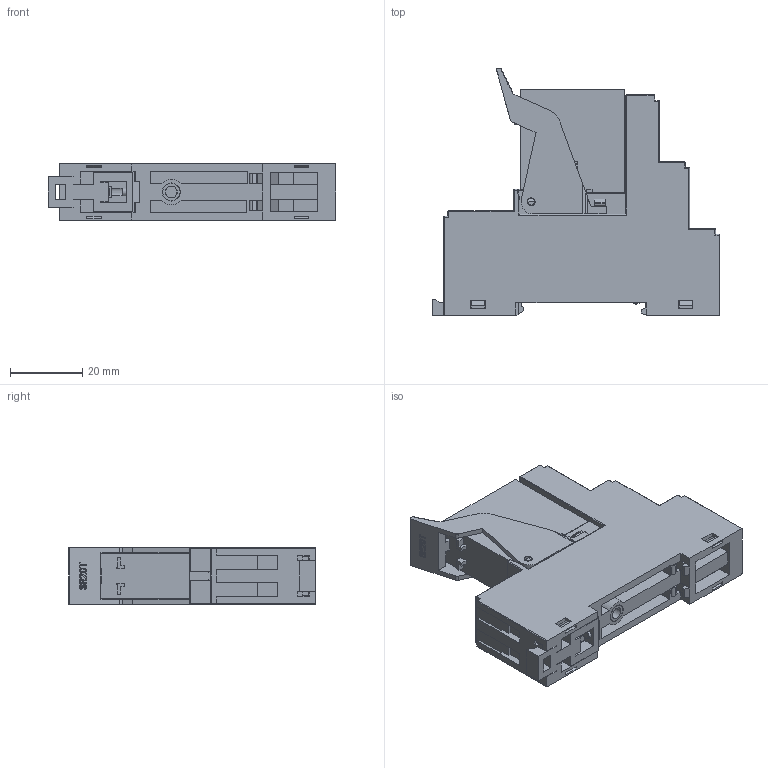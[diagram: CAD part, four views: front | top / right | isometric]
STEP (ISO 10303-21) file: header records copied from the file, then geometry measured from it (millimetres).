
FILE_DESCRIPTION (( 'STEP AP203' ), '1' );
FILE_NAME ('SRU05-E+RFT1CO 俋倛.STEP', '2023-02-01T05:19:50', ( '' ), ( '' ), 'SwSTEP 2.0', 'SolidWorks 2018', '' );
FILE_SCHEMA (( 'CONFIG_CONTROL_DESIGN' ));
Products named in the file (1): SRU05-E+RFT1CO 俋倛
Bounding box: 79.6 x 68.26 x 15.7 mm (x, y, z)
Volume: 48342.9 mm3; surface area: 20325.1 mm2
Topology: 3 solids, 9 shells, 1365 faces, 3580 edges, 2272 vertices
Faces by surface type: plane 944, cylinder 250, torus 65, bspline 53, cone 33, sphere 20
Entity records: 45554 total; most frequent: CARTESIAN_POINT 12339, ORIENTED_EDGE 7096, DIRECTION 6477, EDGE_CURVE 3548, VECTOR 2669, LINE 2669, VERTEX_POINT 2270, AXIS2_PLACEMENT_3D 1904
